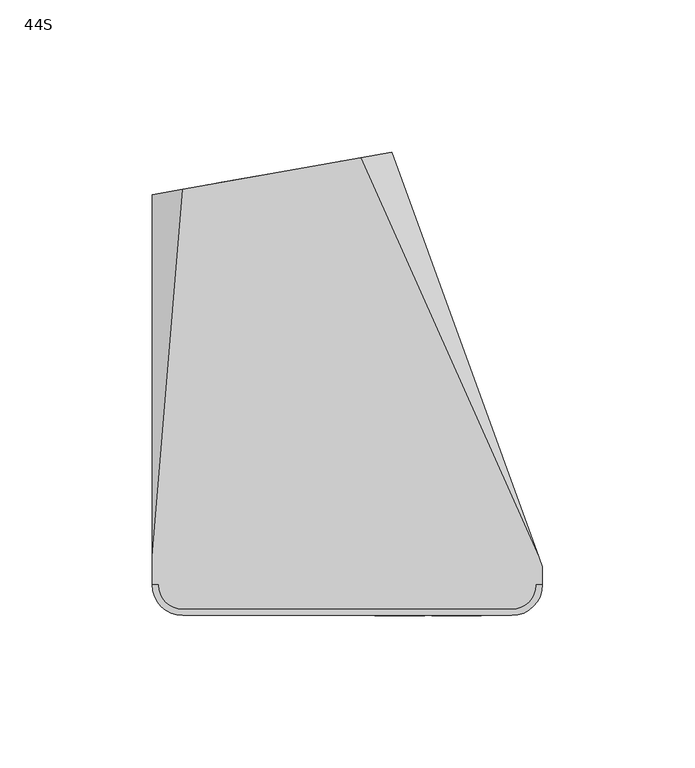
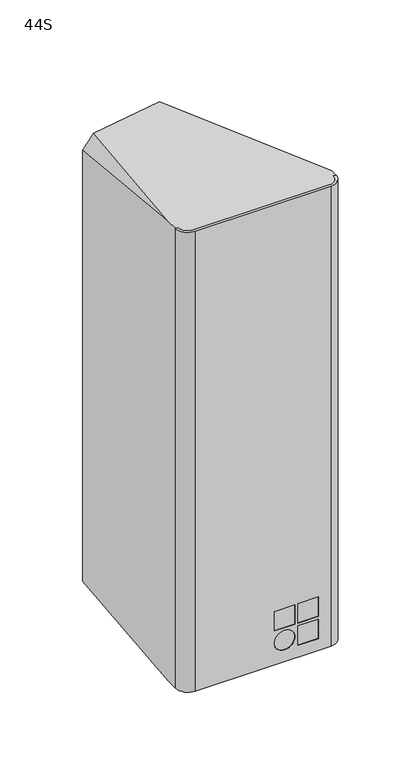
"""IFC4 building model written with IfcOpenShell, lengths in millimetres: proxy geometry, d&b xS-Series 44S Point Source : 44S."""

from ifc_helpers import new_model, si_unit, point, frame, frame_2d, origin, place, context, project, spatial, polyline, circle_curve, ellipse_curve, trimmed, segment, composite_curve, outline, extrude, source, transform, mapped, element, save
from ifc_brep_helpers import plane_surface, cylinder_surface, revolved_surface, advanced_brep


def proxy_44s_6743a1f7(model_context):
    return source(origin(), model_context, "Body", "SolidModel", [
        advanced_brep(
        [(54.0, -73.9650952, 193.4294708), (-54.078429, -73.9650952, 193.4294708), (-62.0435242, -66.0, 193.2924342), (-64.0, -66.0, 193.2924342), (-54.0, -76.0, 193.4644806), (54.0, -76.0, 193.4644806), (64.0349048, -65.9650952, 193.2918337), (62.0, -65.9650952, 193.2918337), (-54.078429, -73.9650952, -193.4294708), (54.0, -73.9650952, -193.4294708), (62.0, -65.9650952, -193.2918337), (64.0349048, -65.9650952, -193.2918337), (54.0, -76.0, -193.4644806), (-54.0, -76.0, -193.4644806), (-64.0, -66.0, -193.2924342), (-62.0435242, -66.0, -193.2924342), (25.3333333, -73.9650952, -164.7978139), (25.3333333, -73.9650952, -148.4644806), (9.0, -73.9650952, -148.4644806), (9.0, -73.9650952, -164.7978139), (44.0, -73.9650952, -164.7978139), (44.0, -73.9650952, -148.4644806), (27.6666667, -73.9650952, -148.4644806), (27.6666667, -73.9650952, -164.7978139), (44.0, -73.9650952, -183.4644806), (44.0, -73.9650952, -167.1311473), (27.6666667, -73.9650952, -167.1311473), (27.6666667, -73.9650952, -183.4644806), (17.1666667, -73.9650952, -167.1311473), (17.1666667, -73.9650952, -183.4644806), (25.3333333, -76.0, -148.4644806), (25.3333333, -76.0, -164.7978139), (9.0, -76.0, -164.7978139), (9.0, -76.0, -148.4644806), (44.0, -76.0, -148.4644806), (44.0, -76.0, -164.7978139), (27.6666667, -76.0, -164.7978139), (27.6666667, -76.0, -148.4644806), (44.0, -76.0, -167.1311473), (44.0, -76.0, -183.4644806), (27.6666667, -76.0, -183.4644806), (27.6666667, -76.0, -167.1311473), (17.1666667, -76.0, -183.4644806), (17.1666667, -76.0, -167.1311473)],
        [
            (0, 1),
            (1, 2, ellipse_curve(frame((-54.078429, -66.0, 193.2924342), z_axis=(0.0, -0.017202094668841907, -0.9998520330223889), x_axis=(0.0, 0.999852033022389, -0.017202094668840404)), 7.9662739, 7.9650952)),
            (2, 3),
            (3, 4, ellipse_curve(frame((-54.0, -66.0, 193.2924342), z_axis=(0.0, 0.017202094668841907, 0.9998520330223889), x_axis=(0.0, -0.999852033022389, 0.017202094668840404)), 10.0014799, 10.0)),
            (4, 5),
            (5, 6, ellipse_curve(frame((54.0, -65.9650952, 193.2918337), z_axis=(0.0, 0.017202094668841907, 0.9998520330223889), x_axis=(0.0, -0.999852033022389, 0.017202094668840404)), 10.0363899, 10.0349048)),
            (6, 7),
            (7, 0, ellipse_curve(frame((54.0, -65.9650952, 193.2918337), z_axis=(0.0, -0.017202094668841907, -0.9998520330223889), x_axis=(0.0, 0.999852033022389, -0.017202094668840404)), 8.0011839, 8.0)),
            (8, 9),
            (9, 10, ellipse_curve(frame((54.0, -65.9650952, -193.2918337), z_axis=(0.0, -0.017202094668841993, 0.9998520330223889), x_axis=(0.0, -0.999852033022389, -0.017202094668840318)), 8.0011839, 8.0)),
            (10, 11),
            (11, 12, ellipse_curve(frame((54.0, -65.9650952, -193.2918337), z_axis=(0.0, 0.017202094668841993, -0.9998520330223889), x_axis=(0.0, 0.999852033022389, 0.017202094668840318)), 10.0363899, 10.0349048)),
            (12, 13),
            (13, 14, ellipse_curve(frame((-54.0, -66.0, -193.2924342), z_axis=(0.0, 0.017202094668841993, -0.9998520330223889), x_axis=(0.0, 0.999852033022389, 0.017202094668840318)), 10.0014799, 10.0)),
            (14, 15),
            (15, 8, ellipse_curve(frame((-54.078429, -66.0, -193.2924342), z_axis=(0.0, -0.017202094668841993, 0.9998520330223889), x_axis=(0.0, -0.999852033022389, -0.017202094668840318)), 7.9662739, 7.9650952)),
            (0, 9),
            (8, 1),
            (16, 17),
            (17, 18),
            (18, 19),
            (19, 16),
            (20, 21),
            (21, 22),
            (22, 23),
            (23, 20),
            (24, 25),
            (25, 26),
            (26, 27),
            (27, 24),
            (28, 29, circle_curve(frame((17.1666667, -73.9650952, -175.2978139), z_axis=(0.0, -1.0, 0.0), x_axis=(0.0, 0.0, 1.0)), 8.1666667)),
            (29, 28, circle_curve(frame((17.1666667, -73.9650952, -175.2978139), z_axis=(0.0, -1.0, 0.0), x_axis=(0.0, 0.0, 1.0)), 8.1666667)),
            (15, 2),
            (14, 3),
            (13, 4),
            (12, 5),
            (30, 31),
            (31, 32),
            (32, 33),
            (33, 30),
            (34, 35),
            (35, 36),
            (36, 37),
            (37, 34),
            (38, 39),
            (39, 40),
            (40, 41),
            (41, 38),
            (42, 43, circle_curve(frame((17.1666667, -76.0, -175.2978139), z_axis=(0.0, 1.0, 0.0), x_axis=(0.0, 0.0, 1.0)), 8.1666667)),
            (43, 42, circle_curve(frame((17.1666667, -76.0, -175.2978139), z_axis=(0.0, 1.0, 0.0), x_axis=(0.0, 0.0, 1.0)), 8.1666667)),
            (11, 6),
            (10, 7),
            (16, 31),
            (30, 17),
            (19, 32),
            (18, 33),
            (20, 35),
            (34, 21),
            (23, 36),
            (22, 37),
            (24, 39),
            (38, 25),
            (27, 40),
            (26, 41),
            (28, 43),
            (42, 29),
        ],
        [
            plane_surface(frame((100.0, -97.3033587, 193.8309972), z_axis=(0.0, 0.017202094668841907, 0.9998520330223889), x_axis=(-1.0, 0.0, 0.0))),
            plane_surface(frame((100.0, 83.9889493, -190.7119283), z_axis=(0.0, 0.017202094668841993, -0.9998520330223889), x_axis=(-1.0, 0.0, 0.0))),
            plane_surface(frame((54.0, -73.9650952, 202.5), z_axis=(0.0, 1.0, 0.0), x_axis=(0.0, 0.0, -1.0))),
            revolved_surface(polyline([(-46.1133338, -66.0, -193.4294708), (-46.1133338, -66.0, 193.4294708)]), (-54.078429, -66.0, -202.5), (0.0, 0.0, -1.0)),
            plane_surface(frame((-62.0435242, -66.0, 202.5), z_axis=(0.0, 1.0, 0.0), x_axis=(0.0, 0.0, -1.0))),
            cylinder_surface(frame((-54.0, -66.0, -202.5), z_axis=(0.0, 0.0, 1.0), x_axis=(1.0, 0.0, 0.0)), 10.0),
            plane_surface(frame((-54.0, -76.0, 202.5), z_axis=(0.0, -1.0, 0.0), x_axis=(0.0, 0.0, -1.0))),
            cylinder_surface(frame((54.0, -65.9650952, -202.5), z_axis=(0.0, 0.0, 1.0), x_axis=(1.0, 0.0, 0.0)), 10.0349048),
            plane_surface(frame((64.0349048, -65.9650952, 202.5), z_axis=(0.0, 1.0, 0.0), x_axis=(0.0, 0.0, -1.0))),
            revolved_surface(polyline([(62.0, -65.9650952, -193.42947082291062), (62.0, -65.9650952, 193.42947082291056)]), (54.0, -65.9650952, -202.5), (0.0, 0.0, -1.0)),
            plane_surface(frame((25.3333333, -76.0, -164.7978139), z_axis=(-1.0, 0.0, 0.0), x_axis=(0.0, 1.0, 0.0))),
            plane_surface(frame((9.0, -76.0, -164.7978139), z_axis=(0.0, 0.0, 1.0), x_axis=(0.0, 1.0, 0.0))),
            plane_surface(frame((9.0, -76.0, -148.4644806), z_axis=(1.0, 0.0, 0.0), x_axis=(0.0, 1.0, 0.0))),
            plane_surface(frame((25.3333333, -76.0, -148.4644806), z_axis=(0.0, 0.0, -1.0), x_axis=(0.0, 1.0, 0.0))),
            plane_surface(frame((44.0, -76.0, -164.7978139), z_axis=(-1.0, 0.0, 0.0), x_axis=(0.0, 1.0, 0.0))),
            plane_surface(frame((27.6666667, -76.0, -164.7978139), z_axis=(0.0, 0.0, 1.0), x_axis=(0.0, 1.0, 0.0))),
            plane_surface(frame((27.6666667, -76.0, -148.4644806), z_axis=(1.0, 0.0, 0.0), x_axis=(0.0, 1.0, 0.0))),
            plane_surface(frame((44.0, -76.0, -148.4644806), z_axis=(0.0, 0.0, -1.0), x_axis=(0.0, 1.0, 0.0))),
            plane_surface(frame((44.0, -76.0, -183.4644806), z_axis=(-1.0, 0.0, 0.0), x_axis=(0.0, 1.0, 0.0))),
            plane_surface(frame((27.6666667, -76.0, -183.4644806), z_axis=(0.0, 0.0, 1.0), x_axis=(0.0, 1.0, 0.0))),
            plane_surface(frame((27.6666667, -76.0, -167.1311473), z_axis=(1.0, 0.0, 0.0), x_axis=(0.0, 1.0, 0.0))),
            plane_surface(frame((44.0, -76.0, -167.1311473), z_axis=(0.0, 0.0, -1.0), x_axis=(0.0, 1.0, 0.0))),
            revolved_surface(polyline([(17.1666667, -76.0, -167.1311472), (17.1666667, -73.9650952, -167.1311472)]), (17.1666667, -15.7477083, -175.2978139), (0.0, -1.0, 0.0)),
        ],
        [
            (0, [[1, 2, 3, 4, 5, 6, 7, 8]]),
            (1, [[9, 10, 11, 12, 13, 14, 15, 16]]),
            (2, [[17, -9, 18, -1], [19, 20, 21, 22], [23, 24, 25, 26], [27, 28, 29, 30], [31, 32]]),
            (3, [[-18, -16, 33, -2]]),
            (4, [[-33, -15, 34, -3]]),
            (5, [[-34, -14, 35, -4]]),
            (6, [[-35, -13, 36, -5], [37, 38, 39, 40], [41, 42, 43, 44], [45, 46, 47, 48], [49, 50]]),
            (7, [[-36, -12, 51, -6]]),
            (8, [[-51, -11, 52, -7]]),
            (9, [[-17, -8, -52, -10]]),
            (10, [[53, -37, 54, -19]]),
            (11, [[-53, -22, 55, -38]]),
            (12, [[-55, -21, 56, -39]]),
            (13, [[-56, -20, -54, -40]]),
            (14, [[57, -41, 58, -23]]),
            (15, [[-57, -26, 59, -42]]),
            (16, [[-59, -25, 60, -43]]),
            (17, [[-60, -24, -58, -44]]),
            (18, [[61, -45, 62, -27]]),
            (19, [[-61, -30, 63, -46]]),
            (20, [[-63, -29, 64, -47]]),
            (21, [[-64, -28, -62, -48]]),
            (22, [[65, -49, 66, -31]]),
            (22, [[-65, -32, -66, -50]]),
        ],
    ),
        extrude(outline(polyline([(25.3333333, -76.0), (9.0, -76.0), (9.0, -71.0), (25.3333333, -71.0), (25.3333333, -76.0)])), frame((0.0, 0.0, -164.7978139), z_axis=(0.0, 0.0, 1.0), x_axis=(1.0, 0.0, 0.0)), (0.0, 0.0, 1.0), 16.3333333),
        extrude(outline(polyline([(44.0, -76.0), (27.6666667, -76.0), (27.6666667, -71.0), (44.0, -71.0), (44.0, -76.0)])), frame((0.0, 0.0, -164.7978139), z_axis=(0.0, 0.0, 1.0), x_axis=(1.0, 0.0, 0.0)), (0.0, 0.0, 1.0), 16.3333333),
        extrude(outline(polyline([(44.0, -76.0), (27.6666667, -76.0), (27.6666667, -71.0), (44.0, -71.0), (44.0, -76.0)])), frame((0.0, 0.0, -183.4644806), z_axis=(0.0, 0.0, 1.0), x_axis=(1.0, 0.0, 0.0)), (0.0, 0.0, 1.0), 16.3333333),
        extrude(outline(composite_curve([segment(trimmed(circle_curve(frame_2d((-175.2978139, 17.1666667)), 8.1666667), [point((-183.4644806, 17.1666667))], [point((-167.1311473, 17.1666667))], False, "CARTESIAN"), True, "CONTINUOUS"), segment(trimmed(circle_curve(frame_2d((-175.2978139, 17.1666667)), 8.1666667), [point((-167.1311473, 17.1666667))], [point((-183.4644806, 17.1666667))], False, "CARTESIAN"), True, "CONTINUOUS")], self_intersect=False)), frame((0.0, -76.0, 0.0), z_axis=(0.0, 1.0, 0.0), x_axis=(0.0, 0.0, 1.0)), (0.0, 0.0, 1.0), 5.0),
        advanced_brep(
        [(-64.0, -66.0, 193.2924342), (-62.0435242, -66.0, 193.2924342), (-54.078429, -73.9650952, 193.4294708), (54.0, -73.9650952, 193.4294708), (62.0, -65.9650952, 193.2918337), (64.0, -65.9650952, 193.2918337), (64.0, -60.0349048, 193.1898069), (62.7855103, -56.6972655, 193.132384), (4.3760941, 74.2148737, 190.8800877), (-54.074657, 63.9084293, 191.0574064), (-64.0, -56.6972655, 193.132384), (-62.0435242, -66.0, -193.2924342), (-64.0, -66.0, -193.2924342), (-64.0, -56.6972655, -193.132384), (-54.074657, 63.9084293, -191.0574064), (4.3760941, 74.2148737, -190.8800877), (62.7855103, -56.6972655, -193.132384), (64.0, -60.0349048, -193.1898069), (64.0, -65.9650952, -193.2918337), (62.0, -65.9650952, -193.2918337), (54.0, -73.9650952, -193.4294708), (-54.078429, -73.9650952, -193.4294708), (-64.0, 62.1583235, 181.3061997), (-64.0, 62.1583235, -181.3061997), (14.5000481, 76.0, -179.9289467), (14.5000481, 76.0, 179.9289467), (-11.9474751, 71.3365881, 138.5), (-37.5524767, 66.8217355, 138.5), (-47.4005542, 65.0852537, 128.5), (-47.4005542, 65.0852537, 51.5), (-37.5524767, 66.8217355, 41.5), (-11.9474751, 71.3365881, 41.5), (-2.0993976, 73.0730698, 51.5), (-2.0993976, 73.0730698, 128.5), (-11.0792343, 66.4125493, 138.5), (-1.2311567, 68.1490311, 128.5), (-1.2311567, 68.1490311, 51.5), (-11.0792343, 66.4125493, 41.5), (-36.6842358, 61.8976967, 41.5), (-46.5323134, 60.1612149, 51.5), (-46.5323134, 60.1612149, 128.5), (-36.6842358, 61.8976967, 138.5)],
        [
            (0, 1),
            (1, 2, ellipse_curve(frame((-54.078429, -66.0, 193.2924342), z_axis=(0.0, 0.017202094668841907, 0.9998520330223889), x_axis=(0.0, -0.999852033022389, 0.017202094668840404)), 7.9662739, 7.9650952)),
            (2, 3),
            (3, 4, ellipse_curve(frame((54.0, -65.9650952, 193.2918337), z_axis=(0.0, 0.017202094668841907, 0.9998520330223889), x_axis=(0.0, -0.999852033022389, 0.017202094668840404)), 8.0011839, 8.0)),
            (4, 5),
            (5, 6),
            (6, 7),
            (7, 8),
            (8, 9),
            (9, 10),
            (10, 0),
            (11, 12),
            (12, 13),
            (13, 14),
            (14, 15),
            (15, 16),
            (16, 17),
            (17, 18),
            (18, 19),
            (19, 20, ellipse_curve(frame((54.0, -65.9650952, -193.2918337), z_axis=(0.0, 0.017202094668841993, -0.9998520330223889), x_axis=(0.0, 0.999852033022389, 0.017202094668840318)), 8.0011839, 8.0)),
            (20, 21),
            (21, 11, ellipse_curve(frame((-54.078429, -66.0, -193.2924342), z_axis=(0.0, 0.017202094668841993, -0.9998520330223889), x_axis=(0.0, 0.999852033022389, 0.017202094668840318)), 7.9662739, 7.9650952)),
            (0, 12),
            (11, 1),
            (21, 2),
            (20, 3),
            (19, 4),
            (18, 5),
            (17, 6),
            (10, 22),
            (22, 23),
            (23, 13),
            (16, 24),
            (24, 25),
            (25, 7),
            (9, 22),
            (23, 14),
            (15, 24),
            (25, 8),
            (26, 27),
            (27, 28, circle_curve(frame((-37.5524767, 66.8217355, 128.5), z_axis=(0.17364817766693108, -0.9848077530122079, 0.0), x_axis=(0.9848077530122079, 0.17364817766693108, 0.0)), 10.0)),
            (28, 29),
            (29, 30, circle_curve(frame((-37.5524767, 66.8217355, 51.5), z_axis=(0.17364817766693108, -0.9848077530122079, 0.0), x_axis=(0.9848077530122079, 0.17364817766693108, 0.0)), 10.0)),
            (30, 31),
            (31, 32, circle_curve(frame((-11.9474751, 71.3365881, 51.5), z_axis=(0.17364817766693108, -0.9848077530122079, 0.0), x_axis=(0.9848077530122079, 0.17364817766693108, 0.0)), 10.0)),
            (32, 33),
            (33, 26, circle_curve(frame((-11.9474751, 71.3365881, 128.5), z_axis=(0.17364817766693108, -0.9848077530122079, 0.0), x_axis=(0.9848077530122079, 0.17364817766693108, 0.0)), 10.0)),
            (34, 35, circle_curve(frame((-11.0792343, 66.4125493, 128.5), z_axis=(-0.17364817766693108, 0.9848077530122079, 0.0), x_axis=(0.9848077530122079, 0.17364817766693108, 0.0)), 10.0)),
            (35, 36),
            (36, 37, circle_curve(frame((-11.0792343, 66.4125493, 51.5), z_axis=(-0.17364817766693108, 0.9848077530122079, 0.0), x_axis=(0.9848077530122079, 0.17364817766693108, 0.0)), 10.0)),
            (37, 38),
            (38, 39, circle_curve(frame((-36.6842358, 61.8976967, 51.5), z_axis=(-0.17364817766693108, 0.9848077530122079, 0.0), x_axis=(0.9848077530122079, 0.17364817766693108, 0.0)), 10.0)),
            (39, 40),
            (40, 41, circle_curve(frame((-36.6842358, 61.8976967, 128.5), z_axis=(-0.17364817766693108, 0.9848077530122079, 0.0), x_axis=(0.9848077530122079, 0.17364817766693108, 0.0)), 10.0)),
            (41, 34),
            (41, 27),
            (26, 34),
            (40, 28),
            (39, 29),
            (38, 30),
            (37, 31),
            (36, 32),
            (35, 33),
        ],
        [
            plane_surface(frame((100.0, -97.3033587, 193.8309972), z_axis=(0.0, 0.017202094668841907, 0.9998520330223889), x_axis=(-1.0, 0.0, 0.0))),
            plane_surface(frame((100.0, 83.9889493, -190.7119283), z_axis=(0.0, 0.017202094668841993, -0.9998520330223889), x_axis=(-1.0, 0.0, 0.0))),
            plane_surface(frame((-64.0, -66.0, 207.1452552), z_axis=(0.0, -1.0, 0.0), x_axis=(0.0, 0.0, -1.0))),
            cylinder_surface(frame((-54.078429, -66.0, -207.1452552), z_axis=(0.0, 0.0, 1.0), x_axis=(-1.0, 0.0, 0.0)), 7.9650952),
            plane_surface(frame((-54.078429, -73.9650952, 207.1452552), z_axis=(0.0, -1.0, 0.0), x_axis=(0.0, 0.0, -1.0))),
            cylinder_surface(frame((54.0, -65.9650952, -207.1452552), z_axis=(0.0, 0.0, 1.0), x_axis=(-1.0, 0.0, 0.0)), 8.0),
            plane_surface(frame((62.0, -65.9650952, 207.1452552), z_axis=(0.0, -1.0, 0.0), x_axis=(0.0, 0.0, -1.0))),
            plane_surface(frame((64.0, -65.9650952, 207.1452552), z_axis=(1.0, 0.0, 0.0), x_axis=(0.0, 0.0, -1.0))),
            plane_surface(frame((-64.0, -60.0349048, 207.1452552), z_axis=(-1.0, 0.0, 0.0), x_axis=(0.0, 0.0, -1.0))),
            plane_surface(frame((14.5000481, 76.0, 0.0), z_axis=(0.9397208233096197, 0.3419426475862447, 0.0), x_axis=(0.0, 0.0, 1.0))),
            plane_surface(frame((-57.232233, 76.0, 186.6967137), z_axis=(-0.7053631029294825, 0.07018394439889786, 0.7053631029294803), x_axis=(-0.7071067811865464, 0.0, -0.7071067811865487))),
            plane_surface(frame((-57.232233, 76.0, -186.6967137), z_axis=(-0.7053631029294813, 0.07018394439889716, -0.7053631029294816), x_axis=(0.7071067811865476, 0.0, -0.7071067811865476))),
            plane_surface(frame((7.7322812, 76.0, -186.6967137), z_axis=(0.6719558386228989, 0.31136907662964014, -0.6719558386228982), x_axis=(0.7071067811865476, 0.0, 0.7071067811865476))),
            plane_surface(frame((7.7322812, 76.0, 186.6967137), z_axis=(0.6719558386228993, 0.31136907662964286, 0.6719558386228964), x_axis=(-0.7071067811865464, 0.0, 0.7071067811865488))),
            plane_surface(frame((-81.2585403, 59.1151772, 250.0), z_axis=(-0.1736481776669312, 0.9848077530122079, 0.0), x_axis=(0.0, 0.0, -1.0))),
            plane_surface(frame((-63.1317591, 57.2342848, 138.5), z_axis=(-0.1736481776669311, 0.984807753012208, 0.0), x_axis=(-0.984807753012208, -0.1736481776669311, 0.0))),
            plane_surface(frame((-11.0792343, 66.4125493, 138.5), z_axis=(0.0, 0.0, -1.0), x_axis=(-0.17364817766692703, 0.9848077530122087, 0.0))),
            revolved_surface(polyline([(-26.83615827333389, 63.634178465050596, 128.5), (-27.70439916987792, 68.55821727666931, 128.5)]), (-37.5524767, 66.8217355, 128.5), (0.17364817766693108, -0.9848077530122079, 0.0)),
            plane_surface(frame((-46.5323134, 60.1612149, 128.5), z_axis=(0.9848077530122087, 0.17364817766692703, 0.0), x_axis=(-0.17364817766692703, 0.9848077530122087, 0.0))),
            revolved_surface(polyline([(-26.83615827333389, 63.634178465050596, 51.5), (-27.70439916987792, 68.55821727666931, 51.5)]), (-37.5524767, 66.8217355, 51.5), (0.17364817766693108, -0.9848077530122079, 0.0)),
            plane_surface(frame((-36.6842358, 61.8976967, 41.5), z_axis=(0.0, 0.0, 1.0), x_axis=(-0.17364817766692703, 0.9848077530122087, 0.0))),
            revolved_surface(polyline([(-1.231156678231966, 68.14903109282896, 51.5), (-2.0993975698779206, 73.07306987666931, 51.5)]), (-11.9474751, 71.3365881, 51.5), (0.17364817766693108, -0.9848077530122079, 0.0)),
            plane_surface(frame((-1.2311567, 68.1490311, 51.5), z_axis=(-0.9848077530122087, -0.17364817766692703, 0.0), x_axis=(-0.17364817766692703, 0.9848077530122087, 0.0))),
            revolved_surface(polyline([(-1.231156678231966, 68.14903109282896, 128.5), (-2.0993975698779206, 73.07306987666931, 128.5)]), (-11.9474751, 71.3365881, 128.5), (0.17364817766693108, -0.9848077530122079, 0.0)),
        ],
        [
            (0, [[1, 2, 3, 4, 5, 6, 7, 8, 9, 10, 11]]),
            (1, [[12, 13, 14, 15, 16, 17, 18, 19, 20, 21, 22]]),
            (2, [[23, -12, 24, -1]]),
            (3, [[-24, -22, 25, -2]]),
            (4, [[-25, -21, 26, -3]]),
            (5, [[-26, -20, 27, -4]]),
            (6, [[-27, -19, 28, -5]]),
            (7, [[-28, -18, 29, -6]]),
            (8, [[-23, -11, 30, 31, 32, -13]]),
            (9, [[-29, -17, 33, 34, 35, -7]]),
            (10, [[-30, -10, 36]]),
            (11, [[-32, 37, -14]]),
            (12, [[-33, -16, 38]]),
            (13, [[-35, 39, -8]]),
            (14, [[-31, -36, -9, -39, -34, -38, -15, -37], [40, 41, 42, 43, 44, 45, 46, 47]]),
            (15, [[48, 49, 50, 51, 52, 53, 54, 55]]),
            (16, [[-55, 56, -40, 57]]),
            (17, [[-54, 58, -41, -56]]),
            (18, [[-53, 59, -42, -58]]),
            (19, [[-52, 60, -43, -59]]),
            (20, [[-51, 61, -44, -60]]),
            (21, [[-50, 62, -45, -61]]),
            (22, [[-49, 63, -46, -62]]),
            (23, [[-48, -57, -47, -63]]),
        ],
    ),
    ])


if __name__ == "__main__":
    model = new_model("IFC4")
    model_context = context("Model", 3, world=origin())
    ifc_project = project(units=[si_unit("LENGTHUNIT", "METRE", prefix="MILLI")], contexts=[model_context])
    site = spatial("IfcSite", under=ifc_project)
    building = spatial("IfcBuilding", under=site)
    placement = place(None, origin())
    proxy_44s_shape = proxy_44s_6743a1f7(model_context)
    element("IfcBuildingElementProxy", 1, Name="d&b xS-Series 44S Point Source : 44S", ObjectType="d&b xS-Series 44S Point Source : 44S", at=placement, inside=building, context=model_context, shape_type="MappedRepresentation", body=[
        mapped(proxy_44s_shape, transform((0.0, 0.0, 0.0), x_axis=(1.0, 0.0, 0.0), y_axis=(0.0, 1.0, 0.0), z_axis=(0.0, 0.0, 1.0))),
    ])
    save(model, "model.ifc")
